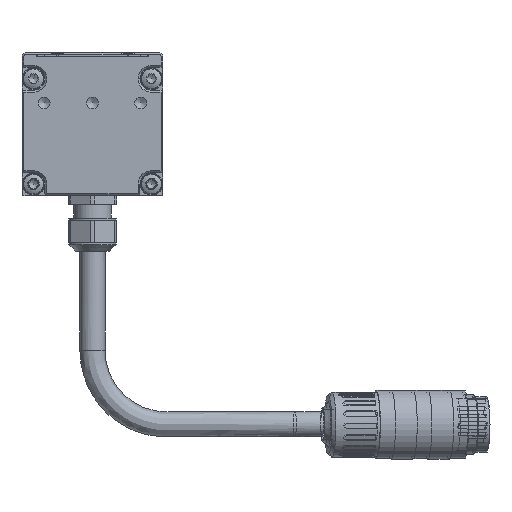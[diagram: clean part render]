
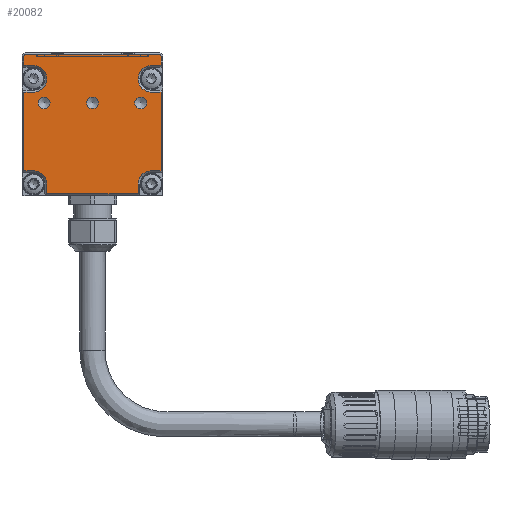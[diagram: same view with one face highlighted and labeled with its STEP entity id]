
A CAD part, left-side view. The second image highlights one B-rep face of the part: STEP entity #20082.
In plain terms, the highlighted planar face has unit normal (-1, 0, 0).
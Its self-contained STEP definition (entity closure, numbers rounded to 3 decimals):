
#880=LINE('',#27913,#1882);
#882=LINE('',#27917,#1884);
#886=LINE('',#27925,#1888);
#889=LINE('',#27931,#1891);
#891=LINE('',#27936,#1893);
#895=LINE('',#27944,#1897);
#897=LINE('',#27948,#1899);
#901=LINE('',#27957,#1903);
#903=LINE('',#27962,#1905);
#906=LINE('',#27970,#1908);
#909=LINE('',#27976,#1911);
#912=LINE('',#27984,#1914);
#916=LINE('',#27992,#1918);
#919=LINE('',#27999,#1921);
#1882=VECTOR('',#23214,1000.);
#1884=VECTOR('',#23218,1000.);
#1888=VECTOR('',#23224,1000.);
#1891=VECTOR('',#23229,1000.);
#1893=VECTOR('',#23235,1000.);
#1897=VECTOR('',#23241,1000.);
#1899=VECTOR('',#23247,1000.);
#1903=VECTOR('',#23257,1000.);
#1905=VECTOR('',#23265,1000.);
#1908=VECTOR('',#23274,1000.);
#1911=VECTOR('',#23283,1000.);
#1914=VECTOR('',#23292,1000.);
#1918=VECTOR('',#23302,1000.);
#1921=VECTOR('',#23311,1000.);
#2682=PLANE('',#21147);
#3923=ORIENTED_EDGE('',*,*,#7674,.T.);
#3924=ORIENTED_EDGE('',*,*,#7675,.T.);
#3925=ORIENTED_EDGE('',*,*,#7676,.T.);
#3926=ORIENTED_EDGE('',*,*,#7648,.T.);
#3927=ORIENTED_EDGE('',*,*,#7645,.T.);
#3928=ORIENTED_EDGE('',*,*,#7639,.T.);
#3929=ORIENTED_EDGE('',*,*,#7656,.T.);
#3930=ORIENTED_EDGE('',*,*,#7654,.T.);
#3931=ORIENTED_EDGE('',*,*,#7652,.T.);
#3932=ORIENTED_EDGE('',*,*,#7630,.T.);
#3933=ORIENTED_EDGE('',*,*,#7663,.T.);
#3934=ORIENTED_EDGE('',*,*,#7661,.T.);
#3935=ORIENTED_EDGE('',*,*,#7659,.T.);
#3936=ORIENTED_EDGE('',*,*,#7628,.T.);
#3937=ORIENTED_EDGE('',*,*,#7673,.F.);
#3938=ORIENTED_EDGE('',*,*,#7643,.T.);
#3939=ORIENTED_EDGE('',*,*,#7672,.F.);
#3940=ORIENTED_EDGE('',*,*,#7637,.T.);
#3941=ORIENTED_EDGE('',*,*,#7671,.T.);
#3942=ORIENTED_EDGE('',*,*,#7669,.T.);
#3943=ORIENTED_EDGE('',*,*,#7667,.T.);
#3944=ORIENTED_EDGE('',*,*,#7634,.T.);
#3945=ORIENTED_EDGE('',*,*,#7650,.T.);
#7628=EDGE_CURVE('',#9566,#9567,#880,.T.);
#7630=EDGE_CURVE('',#9569,#9568,#882,.T.);
#7634=EDGE_CURVE('',#9570,#9571,#886,.T.);
#7637=EDGE_CURVE('',#9572,#9573,#889,.T.);
#7639=EDGE_CURVE('',#9575,#9574,#891,.T.);
#7643=EDGE_CURVE('',#9576,#9577,#895,.T.);
#7645=EDGE_CURVE('',#9578,#9575,#897,.T.);
#7648=EDGE_CURVE('',#9579,#9578,#10697,.T.);
#7650=EDGE_CURVE('',#9571,#9579,#901,.T.);
#7652=EDGE_CURVE('',#9580,#9569,#903,.T.);
#7654=EDGE_CURVE('',#9581,#9580,#10698,.T.);
#7656=EDGE_CURVE('',#9574,#9581,#906,.T.);
#7659=EDGE_CURVE('',#9582,#9566,#909,.T.);
#7661=EDGE_CURVE('',#9583,#9582,#10699,.T.);
#7663=EDGE_CURVE('',#9568,#9583,#912,.T.);
#7667=EDGE_CURVE('',#9584,#9570,#916,.T.);
#7669=EDGE_CURVE('',#9585,#9584,#10700,.T.);
#7671=EDGE_CURVE('',#9573,#9585,#919,.T.);
#7672=EDGE_CURVE('',#9572,#9577,#10701,.T.);
#7673=EDGE_CURVE('',#9576,#9567,#10702,.T.);
#7674=EDGE_CURVE('',#9586,#9586,#10703,.T.);
#7675=EDGE_CURVE('',#9587,#9587,#10704,.T.);
#7676=EDGE_CURVE('',#9588,#9588,#10705,.T.);
#9566=VERTEX_POINT('',#27910);
#9567=VERTEX_POINT('',#27912);
#9568=VERTEX_POINT('',#27916);
#9569=VERTEX_POINT('',#27918);
#9570=VERTEX_POINT('',#27922);
#9571=VERTEX_POINT('',#27924);
#9572=VERTEX_POINT('',#27928);
#9573=VERTEX_POINT('',#27930);
#9574=VERTEX_POINT('',#27935);
#9575=VERTEX_POINT('',#27937);
#9576=VERTEX_POINT('',#27941);
#9577=VERTEX_POINT('',#27943);
#9578=VERTEX_POINT('',#27949);
#9579=VERTEX_POINT('',#27953);
#9580=VERTEX_POINT('',#27963);
#9581=VERTEX_POINT('',#27967);
#9582=VERTEX_POINT('',#27977);
#9583=VERTEX_POINT('',#27981);
#9584=VERTEX_POINT('',#27991);
#9585=VERTEX_POINT('',#27995);
#9586=VERTEX_POINT('',#28007);
#9587=VERTEX_POINT('',#28009);
#9588=VERTEX_POINT('',#28011);
#10697=CIRCLE('',#21122,3.6);
#10698=CIRCLE('',#21128,3.6);
#10699=CIRCLE('',#21134,3.6);
#10700=CIRCLE('',#21140,3.6);
#10701=CIRCLE('',#21144,0.5);
#10702=CIRCLE('',#21146,0.5);
#10703=CIRCLE('',#21148,1.621);
#10704=CIRCLE('',#21149,1.621);
#10705=CIRCLE('',#21150,1.621);
#11388=EDGE_LOOP('',(#3923));
#11389=EDGE_LOOP('',(#3924));
#11390=EDGE_LOOP('',(#3925));
#11391=EDGE_LOOP('',(#3926,#3927,#3928,#3929,#3930,#3931,#3932,#3933,#3934,
#3935,#3936,#3937,#3938,#3939,#3940,#3941,#3942,#3943,#3944,#3945));
#12478=FACE_BOUND('',#11388,.T.);
#12479=FACE_BOUND('',#11389,.T.);
#12480=FACE_BOUND('',#11390,.T.);
#12481=FACE_BOUND('',#11391,.T.);
#20082=ADVANCED_FACE('',(#12478,#12479,#12480,#12481),#2682,.F.);
#21122=AXIS2_PLACEMENT_3D('',#27954,#23252,#23253);
#21128=AXIS2_PLACEMENT_3D('',#27966,#23269,#23270);
#21134=AXIS2_PLACEMENT_3D('',#27980,#23287,#23288);
#21140=AXIS2_PLACEMENT_3D('',#27996,#23306,#23307);
#21144=AXIS2_PLACEMENT_3D('',#28002,#23316,#23317);
#21146=AXIS2_PLACEMENT_3D('',#28004,#23320,#23321);
#21147=AXIS2_PLACEMENT_3D('',#28005,#23322,#23323);
#21148=AXIS2_PLACEMENT_3D('',#28006,#23324,#23325);
#21149=AXIS2_PLACEMENT_3D('',#28008,#23326,#23327);
#21150=AXIS2_PLACEMENT_3D('',#28010,#23328,#23329);
#23214=DIRECTION('',(0.,0.,1.));
#23218=DIRECTION('',(0.,0.,1.));
#23224=DIRECTION('',(0.,0.,-1.));
#23229=DIRECTION('',(0.,0.,-1.));
#23235=DIRECTION('',(0.,-1.,0.));
#23241=DIRECTION('',(0.,1.,0.));
#23247=DIRECTION('',(0.,0.,-1.));
#23252=DIRECTION('',(1.,0.,0.));
#23253=DIRECTION('',(0.,1.,0.));
#23257=DIRECTION('',(0.,-1.,0.));
#23265=DIRECTION('',(0.,-1.,0.));
#23269=DIRECTION('',(1.,0.,0.));
#23270=DIRECTION('',(0.,1.,0.));
#23274=DIRECTION('',(0.,0.,1.));
#23283=DIRECTION('',(0.,-1.,0.));
#23287=DIRECTION('',(1.,0.,0.));
#23288=DIRECTION('',(0.,1.,0.));
#23292=DIRECTION('',(0.,1.,0.));
#23302=DIRECTION('',(0.,1.,0.));
#23306=DIRECTION('',(1.,0.,0.));
#23307=DIRECTION('',(0.,1.,0.));
#23311=DIRECTION('',(0.,-1.,0.));
#23316=DIRECTION('',(1.,0.,0.));
#23317=DIRECTION('',(0.,1.,0.));
#23320=DIRECTION('',(1.,0.,0.));
#23321=DIRECTION('',(0.,1.,0.));
#23322=DIRECTION('',(1.,0.,0.));
#23323=DIRECTION('',(0.,1.,0.));
#23324=DIRECTION('',(1.,0.,0.));
#23325=DIRECTION('',(0.,-1.,0.));
#23326=DIRECTION('',(1.,0.,0.));
#23327=DIRECTION('',(0.,-1.,0.));
#23328=DIRECTION('',(1.,0.,0.));
#23329=DIRECTION('',(0.,-1.,0.));
#27910=CARTESIAN_POINT('',(-1714.998,-18.5,35.119));
#27912=CARTESIAN_POINT('',(-1714.998,-18.5,37.519));
#27913=CARTESIAN_POINT('',(-1714.998,-18.5,0.019));
#27916=CARTESIAN_POINT('',(-1714.998,-18.5,27.919));
#27917=CARTESIAN_POINT('',(-1714.998,-18.5,0.019));
#27918=CARTESIAN_POINT('',(-1714.998,-18.5,6.719));
#27922=CARTESIAN_POINT('',(-1714.998,18.5,27.919));
#27924=CARTESIAN_POINT('',(-1714.998,18.5,6.719));
#27925=CARTESIAN_POINT('',(-1714.998,18.5,0.019));
#27928=CARTESIAN_POINT('',(-1714.998,18.5,37.519));
#27930=CARTESIAN_POINT('',(-1714.998,18.5,35.119));
#27931=CARTESIAN_POINT('',(-1714.998,18.5,0.019));
#27935=CARTESIAN_POINT('',(-1714.998,-12.3,0.519));
#27936=CARTESIAN_POINT('',(-1714.998,-12.3,0.519));
#27937=CARTESIAN_POINT('',(-1714.998,12.3,0.519));
#27941=CARTESIAN_POINT('',(-1714.998,-18.,38.019));
#27943=CARTESIAN_POINT('',(-1714.998,18.,38.019));
#27944=CARTESIAN_POINT('',(-1714.998,-19.,38.019));
#27948=CARTESIAN_POINT('',(-1714.998,12.3,0.019));
#27949=CARTESIAN_POINT('',(-1714.998,12.3,3.119));
#27953=CARTESIAN_POINT('',(-1714.998,15.9,6.719));
#27954=CARTESIAN_POINT('',(-1714.998,15.9,3.119));
#27957=CARTESIAN_POINT('',(-1714.998,-19.,6.719));
#27962=CARTESIAN_POINT('',(-1714.998,-19.,6.719));
#27963=CARTESIAN_POINT('',(-1714.998,-15.9,6.719));
#27966=CARTESIAN_POINT('',(-1714.998,-15.9,3.119));
#27967=CARTESIAN_POINT('',(-1714.998,-12.3,3.119));
#27970=CARTESIAN_POINT('',(-1714.998,-12.3,0.019));
#27976=CARTESIAN_POINT('',(-1714.998,-19.,35.119));
#27977=CARTESIAN_POINT('',(-1714.998,-15.9,35.119));
#27980=CARTESIAN_POINT('',(-1714.998,-15.9,31.519));
#27981=CARTESIAN_POINT('',(-1714.998,-15.9,27.919));
#27984=CARTESIAN_POINT('',(-1714.998,-19.,27.919));
#27991=CARTESIAN_POINT('',(-1714.998,15.9,27.919));
#27992=CARTESIAN_POINT('',(-1714.998,-19.,27.919));
#27995=CARTESIAN_POINT('',(-1714.998,15.9,35.119));
#27996=CARTESIAN_POINT('',(-1714.998,15.9,31.519));
#27999=CARTESIAN_POINT('',(-1714.998,-19.,35.119));
#28002=CARTESIAN_POINT('',(-1714.998,18.,37.519));
#28004=CARTESIAN_POINT('',(-1714.998,-18.,37.519));
#28005=CARTESIAN_POINT('',(-1714.998,-19.,0.019));
#28006=CARTESIAN_POINT('',(-1714.998,13.,25.019));
#28007=CARTESIAN_POINT('',(-1714.998,11.379,25.019));
#28008=CARTESIAN_POINT('',(-1714.998,0.,25.019));
#28009=CARTESIAN_POINT('',(-1714.998,-1.621,25.019));
#28010=CARTESIAN_POINT('',(-1714.998,-13.,25.019));
#28011=CARTESIAN_POINT('',(-1714.998,-14.621,25.019));
